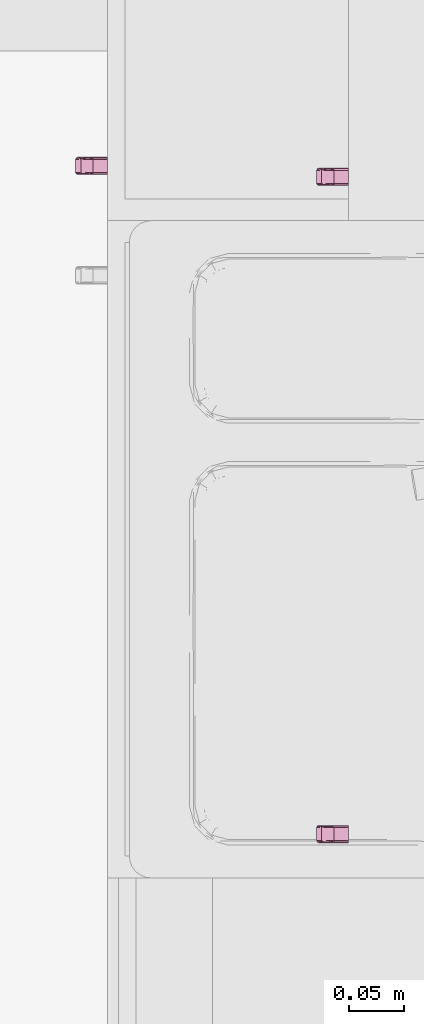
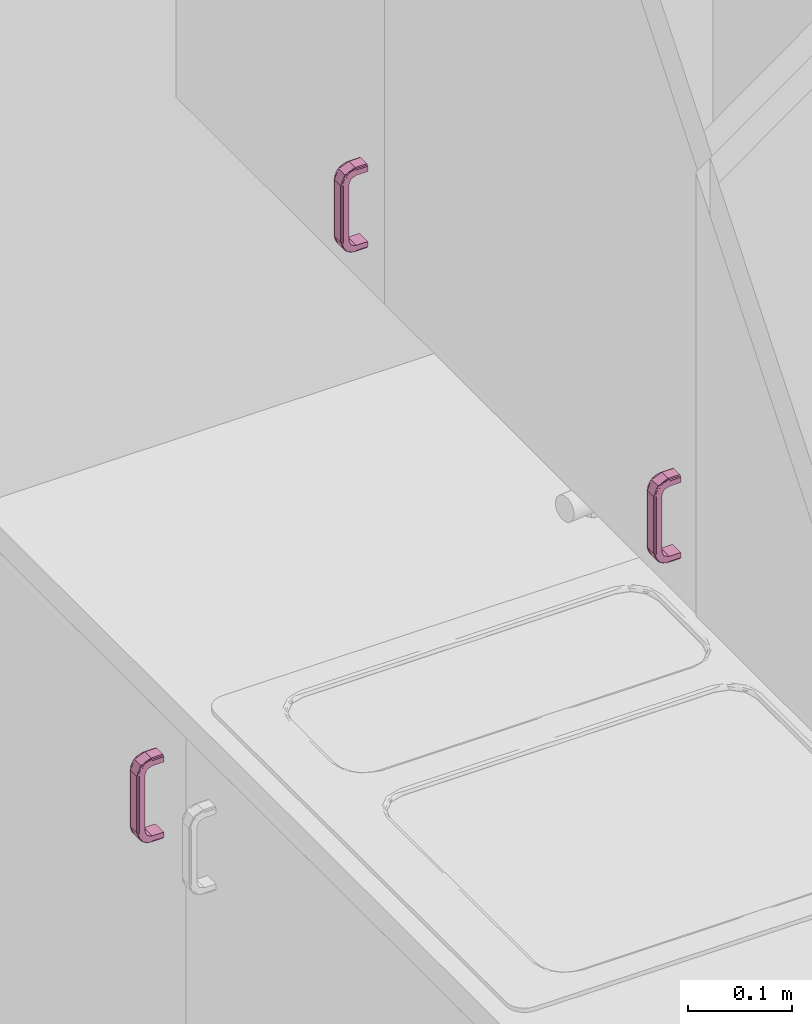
# One storey, part 13 of 15: 3 furnishings.
"""IFC2X3 building model written with IfcOpenShell, lengths in millimetres."""

from ifc_helpers import new_model, entity, si_unit, converted_unit, direction, frame, origin, place, context, subcontext, project, spatial, faceted_brep, source, transform, mapped, material, type_object, type_shapes, element, save


model = new_model("IFC2X3")

# Units and contexts
model_context = context("Model", 3, precision=0.01, world=origin(), true_north=direction((0.0, 1.0)))
body_context = subcontext(model_context, "Body", "Model", "MODEL_VIEW")
ifc_project = project(units=[si_unit("LENGTHUNIT", "METRE", prefix="MILLI"), si_unit("AREAUNIT", "SQUARE_METRE"), si_unit("VOLUMEUNIT", "CUBIC_METRE"), converted_unit("PLANEANGLEUNIT", "DEGREE", entity("IfcPlaneAngleMeasure", 0.017453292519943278), si_unit("PLANEANGLEUNIT", "RADIAN"), dimensions=[0, 0, 0, 0, 0, 0, 0])], contexts=[model_context])

# Site, building, storey, space
site_placement = place(None, origin())
site = spatial("IfcSite", under=ifc_project, at=site_placement, Name="Default", CompositionType="ELEMENT")
building_placement = place(site_placement, origin())
building = spatial("IfcBuilding", under=site, at=building_placement, CompositionType="ELEMENT")
storey_placement = place(building_placement, origin())
storey = spatial("IfcBuildingStorey", under=building, at=storey_placement, Name="Et. 1", CompositionType="ELEMENT", Elevation=0.0)
space_placement = place(storey_placement, frame((11562.567419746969, 11865.190261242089, 0.0)))
space = spatial("IfcSpace", under=storey, at=space_placement, Name="107", CompositionType="ELEMENT", InteriorOrExteriorSpace="INTERNAL")

# Furnishings
ifc_material = material(Name="Focus - Kjøkken - Håndtak")
furniture_type = type_object("IfcFurnitureType", Name="Focus - Håndtak Skap:Håndtak skap", AssemblyPlace="NOTDEFINED", material=ifc_material)
shared_shape = source(origin(), body_context, "Body", "Brep", [
    faceted_brep([(-6.0, 0.0, 4.021099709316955), (6.0, 0.0, 4.021099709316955), (7.414213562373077, 0.0, 3.435313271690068), (8.0, 0.0, 2.021099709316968), (8.0, 0.0, -4.0210997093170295), (-8.0, 0.0, -4.0210997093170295), (-8.0, 0.0, 2.021099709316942), (-7.414213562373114, 0.0, 3.435313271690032), (-8.0, 0.0, -92.021099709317), (-8.0, 0.0, -85.97890029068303), (8.0, 0.0, -85.97890029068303), (8.0, 0.0, -92.02109970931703), (7.414213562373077, 0.0, -93.43531327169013), (6.0, 0.0, -94.02109970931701), (-6.0, 0.0, -94.02109970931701), (-7.414213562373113, 0.0, -93.43531327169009), (6.0, -13.0, 4.021099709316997), (7.414213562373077, -13.0, 3.4353132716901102), (7.707106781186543, -13.0, 2.728206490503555), (8.0, -13.0, 2.0210997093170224), (8.0, -16.60126528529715, 0.5294067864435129), (8.0, -19.75783998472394, -0.7780892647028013), (8.0, -22.914414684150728, -2.0855853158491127), (8.0, -23.941085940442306, -4.564188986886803), (8.0, -24.967757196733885, -7.042792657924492), (8.0, -25.994428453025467, -9.52139632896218), (8.0, -27.021099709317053, -12.0), (8.0, -27.021099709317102, -24.345039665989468), (8.0, -27.02109970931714, -36.69008005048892), (8.0, -27.021099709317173, -47.017560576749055), (8.0, -27.02109970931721, -57.34504038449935), (8.0, -27.021099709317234, -65.65496033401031), (8.0, -27.021099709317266, -78.0), (8.0, -25.52940678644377, -81.60126528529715), (8.0, -24.221910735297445, -84.75783998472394), (8.0, -22.914414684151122, -87.91441468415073), (8.0, -20.435811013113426, -88.9410859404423), (8.0, -17.95720734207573, -89.96775719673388), (8.0, -15.478603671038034, -90.99442845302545), (8.0, -13.0, -92.02109970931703), (8.0, -13.0, -85.97890029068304), (8.0, -18.64193450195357, -83.64193450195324), (8.0, -20.978900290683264, -78.0), (8.0, -20.978900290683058, -12.0), (8.0, -18.641934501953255, -6.358065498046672), (8.0, -13.0, -4.021099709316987), (-8.0, -13.0, -4.021099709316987), (-8.0, -13.0, -92.02109970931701), (-8.0, -16.6012653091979, -90.52940677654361), (-8.0, -19.7578399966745, -89.22191073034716), (-8.0, -22.914414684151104, -87.91441468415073), (-8.0, -23.941085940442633, -85.435811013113), (-8.0, -24.967757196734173, -82.9572073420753), (-8.0, -25.99442845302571, -80.47860367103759), (-8.0, -27.021099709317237, -78.0), (-8.0, -27.0210997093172, -65.65496055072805), (-8.0, -27.021099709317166, -55.327480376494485), (-8.0, -27.02109970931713, -45.00000020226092), (-8.0, -27.021099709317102, -34.67252002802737), (-8.0, -27.021099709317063, -24.34503985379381), (-8.0, -27.02109970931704, -12.0), (-8.0, -25.52940677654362, -8.398734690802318), (-8.0, -24.221910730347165, -5.242160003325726), (-8.0, -22.914414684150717, -2.0855853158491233), (-8.0, -20.435811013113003, -1.0589140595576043), (-8.0, -17.9572073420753, -0.032242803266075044), (-8.0, -15.478603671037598, 0.9944284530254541), (-8.0, -13.0, 2.0210997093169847), (-8.0, -18.641934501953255, -6.358065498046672), (-8.0, -20.97890029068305, -12.0), (-8.0, -20.978900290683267, -78.0), (-8.0, -18.64193450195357, -83.64193450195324), (-8.0, -13.0, -85.97890029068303), (-7.414213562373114, -13.0, 3.4353132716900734), (-6.523051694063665, -13.0, 3.8044446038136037), (-6.0, -13.0, 4.021099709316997), (7.77682804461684, -22.641402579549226, -0.588486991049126), (7.761199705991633, -19.755916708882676, 1.3575143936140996), (7.832026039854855, -25.954055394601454, -4.794062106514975), (6.0, -24.3286282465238, -0.6713717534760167), (6.7653668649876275, -25.002953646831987, -1.6197407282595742), (7.138822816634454, -22.341444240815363, 0.5752165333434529), (6.0, -20.2025305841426, 1.0377138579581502), (7.148530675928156, -17.923500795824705, 2.864246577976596), (7.108929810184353, -27.65191997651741, -6.400304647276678), (6.0, -26.037713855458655, -4.797469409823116), (6.0, -26.674863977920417, -6.335685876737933), (6.0, -27.52940678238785, -8.398734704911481), (6.0, -25.18317105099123, -2.734420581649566), (7.807346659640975, -27.454202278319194, -8.476170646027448), (7.7836039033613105, -16.529274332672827, 2.502698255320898), (6.0, -16.60126529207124, 2.529406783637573), (7.414213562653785, -25.40873190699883, -2.82000717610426), (6.873580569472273, -26.597477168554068, -3.91370423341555), (6.0, -21.496471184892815, 0.5017461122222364), (6.523051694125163, -28.804444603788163, -12.0), (6.968390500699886, -28.53877057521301, -9.3033965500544), (6.0, -27.847981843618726, -9.167842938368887), (6.0, -29.021099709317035, -12.0), (7.414213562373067, -28.43531327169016, -12.0), (6.0, -18.664314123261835, 1.67486397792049), (6.0, -25.501746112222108, -3.5035288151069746), (-6.0, -16.601265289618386, 2.529406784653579), (-6.0, -15.832157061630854, 2.847981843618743), (-7.78360391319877, -27.50269824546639, -8.470725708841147), (-7.761199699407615, -26.357514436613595, -5.244083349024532), (-7.10892981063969, -18.599695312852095, 2.651919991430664), (-6.0, -20.2025305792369, 1.0377138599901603), (-6.0, -18.664314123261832, 1.67486397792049), (-7.730939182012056, -16.04875454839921, 2.7104148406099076), (-7.744591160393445, -19.340507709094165, 1.5930015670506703), (-6.76536686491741, -21.540484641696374, 1.3746327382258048), (-6.0, -22.265579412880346, 0.183171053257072), (-6.0, -21.496471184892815, 0.5017461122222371), (-7.148530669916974, -27.864246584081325, -7.076499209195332), (-7.138822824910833, -25.57521654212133, -2.6585557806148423), (-6.0, -26.037713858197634, -4.7974694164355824), (-7.414213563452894, -22.17999279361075, 0.4087319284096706), (-7.776828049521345, -24.411513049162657, -2.3585974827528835), (-6.853012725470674, -23.855367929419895, -0.47819170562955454), (-7.414213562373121, -28.43531327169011, -12.0), (-6.0, -27.529406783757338, -8.398734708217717), (-6.0, -25.501746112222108, -3.5035288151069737), (-6.0, -24.3286282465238, -0.6713717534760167), (-7.7071067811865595, -27.728206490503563, -12.0), (-6.96839049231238, -15.696603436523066, 3.5387705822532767), (-6.0, -29.021099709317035, -12.0), (-6.0, -26.67486397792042, -6.33568587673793), (7.414213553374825, -28.435313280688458, -29.508780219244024), (6.0, -29.021099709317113, -34.67252039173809), (7.450985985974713, -28.39755881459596, -41.853819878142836), (7.41421354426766, -28.435313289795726, -61.49999992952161), (6.0, -29.02109970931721, -65.65496032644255), (7.4142135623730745, -28.435313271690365, -78.0), (6.0, -29.02109970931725, -78.0), (6.0, -29.02109970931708, -24.345039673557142), (7.707106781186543, -27.728206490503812, -78.0), (6.0, -29.02109970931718, -55.3274796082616), (6.0, -29.021099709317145, -45.0), (-7.414213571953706, -28.435313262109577, -29.50878047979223), (-6.0, -29.02109970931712, -36.69007988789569), (-6.0, -29.021099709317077, -24.345040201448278), (-7.414213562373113, -28.43531327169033, -78.0), (-7.414213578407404, -28.435313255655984, -61.499999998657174), (-6.0, -29.021099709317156, -47.017559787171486), (-7.376459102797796, -28.472085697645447, -41.85382016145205), (-6.0, -29.021099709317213, -65.6549603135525), (-6.523051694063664, -28.80444460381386, -78.0), (-6.0, -29.02109970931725, -78.0), (-6.0, -29.021099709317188, -57.34504020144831), (7.776828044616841, -24.411513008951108, -87.64140257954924), (7.7611997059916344, -26.357514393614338, -84.7559167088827), (7.8320260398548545, -20.20593789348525, -90.95405539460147), (6.0, -24.328628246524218, -89.32862824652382), (6.0, -22.265579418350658, -90.18317105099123), (6.7653668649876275, -23.38025927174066, -90.002953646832), (6.0, -26.037713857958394, -85.2025305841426), (7.138822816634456, -25.575216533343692, -87.34144424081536), (7.148530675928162, -27.864246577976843, -82.92350079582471), (7.108929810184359, -18.599695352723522, -92.65191997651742), (6.0, -20.202530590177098, -91.03771385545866), (6.0, -18.66431412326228, -91.67486397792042), (6.0, -16.601265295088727, -92.52940678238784), (6.873580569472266, -21.086295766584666, -91.5974771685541), (6.0, -21.49647118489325, -90.50174611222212), (7.8073466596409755, -16.5238293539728, -92.45420227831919), (7.78360390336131, -27.50269825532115, -81.52927433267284), (6.0, -27.529406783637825, -81.60126529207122), (7.414213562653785, -22.179992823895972, -90.40873190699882), (6.0, -25.50174611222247, -86.49647118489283), (6.523051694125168, -13.0, -93.80444460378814), (6.968390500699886, -15.696603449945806, -93.53877057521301), (6.0, -15.832157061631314, -92.84798184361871), (6.0, -13.0, -94.02109970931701), (7.414213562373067, -13.0, -93.43531327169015), (6.0, -26.674863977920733, -83.66431412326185), (-6.0, -27.529406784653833, -81.60126528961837), (-6.0, -27.84798184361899, -80.83215706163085), (-7.7836039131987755, -16.529274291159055, -92.50269824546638), (-7.7611996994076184, -19.755916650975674, -91.3575144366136), (-7.108929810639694, -27.651919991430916, -83.59969531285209), (-6.0, -26.03771385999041, -85.20253057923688), (-6.0, -26.67486397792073, -83.66431412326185), (-7.730939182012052, -27.71041484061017, -81.04875454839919), (-7.74459116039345, -26.593001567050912, -84.34050770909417), (-6.76536686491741, -26.374632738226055, -86.54048464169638), (-6.0, -25.18317105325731, -87.26557941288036), (-6.0, -25.50174611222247, -86.49647118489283), (-7.148530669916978, -17.923500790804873, -92.86424658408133), (-7.138822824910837, -22.341444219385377, -90.57521654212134), (-6.0, -20.20253058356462, -91.03771385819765), (-7.414213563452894, -25.40873192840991, -87.17999279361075), (-7.776828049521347, -22.64140251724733, -89.41151304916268), (-6.853012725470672, -24.52180829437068, -88.85536792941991), (-7.41421356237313, -13.0, -93.43531327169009), (-6.0, -16.601265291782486, -92.52940678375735), (-6.0, -21.49647118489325, -90.50174611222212), (-6.0, -24.328628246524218, -89.32862824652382), (-7.707106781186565, -13.0, -92.72820649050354), (-6.96839049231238, -28.538770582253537, -80.69660343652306), (-6.0, -13.0, -94.02109970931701), (-6.0, -18.66431412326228, -91.67486397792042)], [[[0, 1, 2, 3, 4, 5, 6, 7]], [[8, 9, 10, 11, 12, 13, 14, 15]], [[16, 17, 2, 1]], [[2, 17, 18, 19, 3]], [[4, 3, 19, 20, 21, 22, 23, 24, 25, 26, 27, 28, 29, 30, 31, 32, 33, 34, 35, 36, 37, 38, 39, 11, 10, 40, 41, 42, 43, 44, 45]], [[5, 4, 45, 46]], [[9, 8, 47, 48, 49, 50, 51, 52, 53, 54, 55, 56, 57, 58, 59, 60, 61, 62, 63, 64, 65, 66, 67, 6, 5, 46, 68, 69, 70, 71, 72]], [[67, 73, 7, 6]], [[7, 73, 74, 75, 0]], [[1, 0, 75, 16]], [[76, 21, 77]], [[78, 24, 23]], [[79, 80, 81]], [[82, 81, 83]], [[84, 85, 86, 87]], [[80, 79, 88]], [[89, 24, 78]], [[90, 77, 20]], [[17, 91, 83]], [[92, 93, 84]], [[81, 82, 94, 79]], [[87, 95, 96]], [[77, 83, 81]], [[23, 76, 78]], [[93, 92, 80]], [[22, 76, 23]], [[90, 17, 83]], [[19, 18, 17, 90]], [[95, 87, 97, 98]], [[99, 26, 89]], [[76, 77, 81]], [[20, 19, 90]], [[92, 76, 81]], [[21, 76, 22]], [[21, 20, 77]], [[83, 77, 90]], [[91, 17, 16]], [[83, 91, 100, 82]], [[93, 88, 101, 85]], [[81, 80, 92]], [[88, 93, 80]], [[85, 84, 93]], [[76, 92, 78]], [[92, 84, 78]], [[89, 78, 84]], [[84, 96, 89]], [[89, 26, 25, 24]], [[96, 95, 99]], [[89, 96, 99]], [[87, 96, 84]], [[44, 68, 46, 45]], [[43, 69, 68, 44]], [[74, 102, 103, 75]], [[104, 105, 61]], [[106, 107, 108, 102]], [[109, 110, 106]], [[111, 112, 113, 107]], [[105, 114, 115]], [[115, 114, 116]], [[110, 64, 117]], [[118, 62, 105]], [[106, 110, 117]], [[117, 119, 111]], [[120, 121, 114]], [[115, 116, 122, 123]], [[112, 111, 119]], [[119, 117, 118]], [[63, 118, 64]], [[104, 120, 114]], [[60, 124, 120, 104]], [[109, 125, 73]], [[125, 109, 106]], [[118, 105, 115]], [[61, 60, 104]], [[118, 115, 119]], [[62, 118, 63]], [[62, 61, 105]], [[114, 105, 104]], [[121, 120, 126]], [[114, 121, 127, 116]], [[107, 106, 111]], [[106, 117, 111]], [[115, 123, 119]], [[112, 119, 123]], [[64, 118, 117]], [[125, 74, 73]], [[102, 74, 125]], [[102, 125, 106]], [[73, 67, 109]], [[66, 65, 64, 110]], [[110, 109, 66]], [[109, 67, 66]], [[122, 116, 127, 121, 126, 98, 97, 87, 86, 85, 101, 88, 79, 123]], [[79, 94, 82, 100, 91, 16, 75, 103, 102, 108, 107, 113, 112, 123]], [[128, 28, 27, 99]], [[129, 130, 128]], [[29, 130, 131]], [[132, 133, 131]], [[132, 134, 133]], [[135, 99, 95, 98]], [[128, 99, 135, 129]], [[30, 29, 131, 31]], [[31, 133, 136, 32]], [[27, 26, 99]], [[31, 131, 133]], [[130, 137, 131]], [[28, 130, 29]], [[129, 138, 137, 130]], [[28, 128, 130]], [[137, 132, 131]], [[69, 43, 42, 70]], [[139, 140, 141, 120]], [[55, 142, 143]], [[144, 145, 143]], [[146, 142, 147, 148]], [[141, 126, 120]], [[55, 54, 142]], [[59, 120, 124, 60]], [[139, 120, 59, 58]], [[146, 149, 144, 143]], [[58, 145, 139]], [[146, 143, 142]], [[145, 56, 143]], [[140, 145, 144]], [[58, 57, 56, 145]], [[140, 139, 145]], [[56, 55, 143]], [[98, 126, 141, 140, 144, 149, 146, 148, 134, 132, 137, 138, 129, 135]], [[150, 34, 151]], [[152, 37, 36]], [[153, 154, 155]], [[156, 157, 158]], [[159, 160, 161, 162]], [[163, 154, 164, 160]], [[165, 37, 152]], [[166, 151, 33]], [[133, 167, 158]], [[168, 163, 159]], [[157, 156, 169, 153]], [[162, 170, 171]], [[151, 158, 157]], [[36, 150, 152]], [[163, 168, 155]], [[35, 150, 36]], [[166, 133, 158]], [[32, 136, 133, 166]], [[170, 162, 172, 173]], [[174, 39, 165]], [[150, 151, 157]], [[33, 32, 166]], [[168, 150, 157]], [[34, 150, 35]], [[34, 33, 151]], [[158, 151, 166]], [[167, 133, 134]], [[158, 167, 175, 156]], [[168, 157, 155]], [[157, 153, 155]], [[154, 163, 155]], [[160, 159, 163]], [[150, 168, 152]], [[168, 159, 152]], [[165, 152, 159]], [[159, 171, 165]], [[165, 39, 38, 37]], [[171, 170, 174]], [[165, 171, 174]], [[162, 171, 159]], [[41, 71, 70, 42]], [[40, 72, 71, 41]], [[147, 176, 177, 148]], [[178, 179, 48]], [[180, 181, 182, 176]], [[183, 184, 180]], [[185, 186, 187, 181]], [[179, 188, 189]], [[189, 188, 190]], [[184, 51, 191]], [[192, 49, 179]], [[180, 184, 191]], [[191, 193, 185]], [[194, 195, 188]], [[189, 190, 196, 197]], [[186, 185, 193]], [[193, 191, 192]], [[50, 192, 51]], [[178, 194, 188]], [[47, 198, 194, 178]], [[183, 199, 142]], [[199, 183, 180]], [[192, 179, 189]], [[48, 47, 178]], [[192, 189, 193]], [[49, 192, 50]], [[49, 48, 179]], [[188, 179, 178]], [[195, 194, 200]], [[188, 195, 201, 190]], [[181, 180, 185]], [[180, 191, 185]], [[189, 197, 193]], [[186, 193, 197]], [[51, 192, 191]], [[199, 147, 142]], [[176, 147, 199]], [[176, 199, 180]], [[142, 54, 183]], [[53, 52, 51, 184]], [[184, 183, 53]], [[183, 54, 53]], [[196, 190, 201, 195, 200, 173, 172, 162, 161, 160, 164, 154, 153, 197]], [[153, 169, 156, 175, 167, 134, 148, 177, 176, 182, 181, 187, 186, 197]], [[13, 12, 174, 170, 173]], [[174, 12, 11, 39]], [[72, 40, 10, 9]], [[8, 15, 194, 198, 47]], [[194, 15, 14, 200]], [[173, 200, 14, 13]]]),
])
type_shapes(furniture_type, [shared_shape])
for number, where, z_axis, x_axis, name in (
    (1, (5038.0, 1838.0, 820.0), (0.0, 0.0, 1.0), (0.0, -1.0, 0.0), "Focus - Håndtak Skap:Håndtak skap"),
    (2, (5258.0, 1228.0, 1440.0), (0.0, 0.0, 1.0), (0.0, -1.0, 0.0), "Focus - Håndtak Skap:Håndtak skap"),
    (3, (5258.0, 1828.0, 1440.0), (0.0, 0.0, 1.0), (0.0, -1.0, 0.0), "Focus - Håndtak Skap:Håndtak skap"),
):
    element("IfcFurnishingElement", number, at=place(space_placement, frame(where, z_axis=z_axis, x_axis=x_axis)), inside=space, type_object=furniture_type, material=ifc_material, Name=name, context=body_context, shape_type="MappedRepresentation", body=[
        mapped(shared_shape, transform((0.0, 0.0, 0.0), scale=1.0)),
    ])

save(model, "model.ifc")
